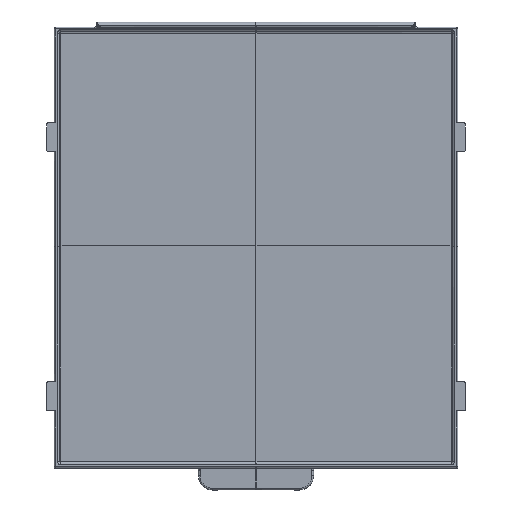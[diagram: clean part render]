
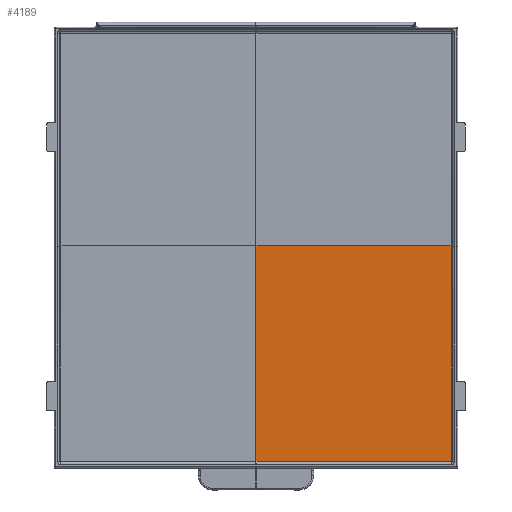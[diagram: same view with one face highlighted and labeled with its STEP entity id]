
A CAD part, top view. The second image highlights one B-rep face of the part: STEP entity #4189.
In plain terms, the highlighted planar face has unit normal (0, -0.039, 0.999).
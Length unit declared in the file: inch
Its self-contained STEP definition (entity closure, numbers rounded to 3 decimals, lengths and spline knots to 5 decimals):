
#76=PLANE('',#4502);
#289=FACE_OUTER_BOUND('',#545,.T.);
#545=EDGE_LOOP('',(#3020,#3021,#3022,#3023,#3024,#3025,#3026,#3027,#3028,
#3029,#3030));
#936=LINE('',#6301,#1371);
#939=LINE('',#6305,#1374);
#978=LINE('',#6406,#1413);
#980=LINE('',#6411,#1415);
#983=LINE('',#6416,#1418);
#984=LINE('',#6418,#1419);
#985=LINE('',#6420,#1420);
#986=LINE('',#6422,#1421);
#987=LINE('',#6424,#1422);
#988=LINE('',#6425,#1423);
#989=LINE('',#6426,#1424);
#1371=VECTOR('',#4974,0.3937);
#1374=VECTOR('',#4979,0.3937);
#1413=VECTOR('',#5078,0.3937);
#1415=VECTOR('',#5082,0.3937);
#1418=VECTOR('',#5087,0.3937);
#1419=VECTOR('',#5088,0.3937);
#1420=VECTOR('',#5089,0.3937);
#1421=VECTOR('',#5090,0.3937);
#1422=VECTOR('',#5091,0.3937);
#1423=VECTOR('',#5092,0.3937);
#1424=VECTOR('',#5093,0.3937);
#1827=VERTEX_POINT('',#6248);
#1843=VERTEX_POINT('',#6286);
#1848=VERTEX_POINT('',#6297);
#1880=VERTEX_POINT('',#6405);
#1881=VERTEX_POINT('',#6409);
#1882=VERTEX_POINT('',#6410);
#1883=VERTEX_POINT('',#6415);
#1884=VERTEX_POINT('',#6417);
#1885=VERTEX_POINT('',#6419);
#1886=VERTEX_POINT('',#6421);
#1887=VERTEX_POINT('',#6423);
#2250=EDGE_CURVE('',#1843,#1848,#936,.T.);
#2253=EDGE_CURVE('',#1848,#1827,#939,.T.);
#2303=EDGE_CURVE('',#1827,#1880,#978,.T.);
#2305=EDGE_CURVE('',#1881,#1882,#980,.T.);
#2308=EDGE_CURVE('',#1883,#1843,#983,.T.);
#2309=EDGE_CURVE('',#1884,#1883,#984,.T.);
#2310=EDGE_CURVE('',#1885,#1884,#985,.T.);
#2311=EDGE_CURVE('',#1886,#1885,#986,.T.);
#2312=EDGE_CURVE('',#1887,#1886,#987,.T.);
#2313=EDGE_CURVE('',#1882,#1887,#988,.T.);
#2314=EDGE_CURVE('',#1881,#1880,#989,.T.);
#3020=ORIENTED_EDGE('',*,*,#2250,.F.);
#3021=ORIENTED_EDGE('',*,*,#2308,.F.);
#3022=ORIENTED_EDGE('',*,*,#2309,.F.);
#3023=ORIENTED_EDGE('',*,*,#2310,.F.);
#3024=ORIENTED_EDGE('',*,*,#2311,.F.);
#3025=ORIENTED_EDGE('',*,*,#2312,.F.);
#3026=ORIENTED_EDGE('',*,*,#2313,.F.);
#3027=ORIENTED_EDGE('',*,*,#2305,.F.);
#3028=ORIENTED_EDGE('',*,*,#2314,.T.);
#3029=ORIENTED_EDGE('',*,*,#2303,.F.);
#3030=ORIENTED_EDGE('',*,*,#2253,.F.);
#4189=ADVANCED_FACE('',(#289),#76,.T.);
#4502=AXIS2_PLACEMENT_3D('',#6414,#5085,#5086);
#4974=DIRECTION('',(0.,-0.999,-0.039));
#4979=DIRECTION('',(-1.,0.,0.));
#5078=DIRECTION('',(0.,0.999,0.039));
#5082=DIRECTION('',(0.,0.999,0.039));
#5085=DIRECTION('center_axis',(0.,-0.039,
0.999));
#5086=DIRECTION('ref_axis',(0.,0.999,0.039));
#5087=DIRECTION('',(1.,0.,0.));
#5088=DIRECTION('',(1.,0.,0.));
#5089=DIRECTION('',(1.,0.,0.));
#5090=DIRECTION('',(1.,0.,0.));
#5091=DIRECTION('',(1.,0.,0.));
#5092=DIRECTION('',(0.,0.999,0.039));
#5093=DIRECTION('',(0.,-0.999,-0.039));
#6248=CARTESIAN_POINT('',(0.,3.70236,-1.90032));
#6286=CARTESIAN_POINT('',(6.772,11.20292,-1.60514));
#6297=CARTESIAN_POINT('',(6.772,3.70236,-1.90032));
#6301=CARTESIAN_POINT('',(6.772,7.38626,-1.75534));
#6305=CARTESIAN_POINT('',(6.832,3.70236,-1.90032));
#6405=CARTESIAN_POINT('',(0.,4.5121,-1.86846));
#6406=CARTESIAN_POINT('',(0.,7.38626,-1.75534));
#6409=CARTESIAN_POINT('',(0.,6.73571,-1.78095));
#6410=CARTESIAN_POINT('',(0.,8.97531,-1.69281));
#6411=CARTESIAN_POINT('',(0.,7.38626,-1.75534));
#6414=CARTESIAN_POINT('Origin',(6.832,3.64,-1.90278));
#6415=CARTESIAN_POINT('',(5.996,11.20292,-1.60514));
#6416=CARTESIAN_POINT('',(5.2315,11.20292,-1.60514));
#6417=CARTESIAN_POINT('',(4.504,11.20292,-1.60514));
#6418=CARTESIAN_POINT('',(5.2315,11.20292,-1.60514));
#6419=CARTESIAN_POINT('',(2.996,11.20292,-1.60514));
#6420=CARTESIAN_POINT('',(5.2315,11.20292,-1.60514));
#6421=CARTESIAN_POINT('',(1.504,11.20292,-1.60514));
#6422=CARTESIAN_POINT('',(5.2315,11.20292,-1.60514));
#6423=CARTESIAN_POINT('',(0.,11.20292,-1.60514));
#6424=CARTESIAN_POINT('',(5.2315,11.20292,-1.60514));
#6425=CARTESIAN_POINT('',(0.,7.38626,-1.75534));
#6426=CARTESIAN_POINT('',(0.,7.38626,-1.75534));
